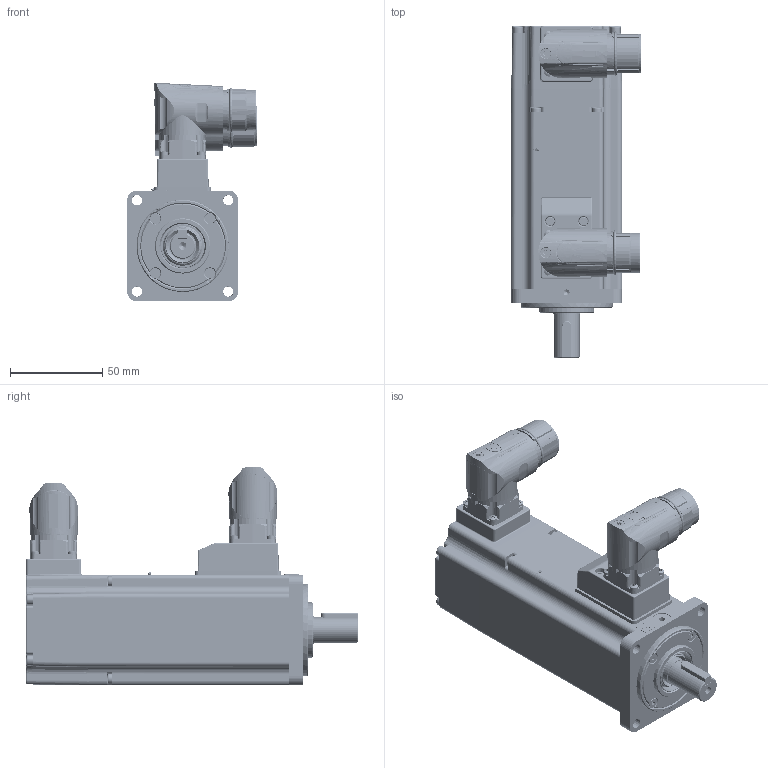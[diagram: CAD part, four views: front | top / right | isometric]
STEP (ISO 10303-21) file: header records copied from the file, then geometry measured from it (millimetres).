
FILE_DESCRIPTION(/* description */ ('AdapterTestApp'),/* implementation_level */ '2;1');
FILE_NAME(/* name */ 'TCE60 2A XX 3 A1 1 C2',/* time_stamp */ '2016-11-11T16:57:54+01:00',/* author */ ('AdapterTestApp'),/* organization */ ('Siemens PLM Software'),/* preprocessor_version */ 'ST-DEVELOPER v15.6',/* originating_system */ 'DEX',/* authorisation */ $);
FILE_SCHEMA (('AUTOMOTIVE_DESIGN {1 0 10303 214 3 1 1}'));
Products named in the file (1): TCE60 2A XX 3 A1 1 C2_vuoto
Bounding box: 70.16 x 180 x 118.5 mm (x, y, z)
Volume: 314309 mm3; surface area: 165526.7 mm2
Topology: 16 solids, 89 shells, 3307 faces, 8394 edges, 5381 vertices
Faces by surface type: plane 1555, cylinder 847, cone 342, bspline 249, torus 195, sphere 81, extrusion 38
Full cylindrical faces by diameter (mm): 1 x21, 1.2 x17, 1.4 x4, 1.5 x3, 2 x12, 2.013 x3, 2.2 x2, 2.459 x49, 2.5 x11, 2.6 x4, 2.65 x4, 2.7 x2, 2.8 x4, 3 x36, 3.2 x1, 3.242 x4, 3.4 x6, 3.5 x21, 4.134 x2, 4.4 x8, 4.5 x2, 4.7 x3, 5 x1, 5.5 x21, 5.8 x1, 5.9 x2, 6 x10, 6.5 x1, 6.8 x1, 9.98 x1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
Entity records: 109491 total; most frequent: CARTESIAN_POINT 35350, DIRECTION 15001, ORIENTED_EDGE 14680, EDGE_CURVE 7340, AXIS2_PLACEMENT_3D 5708, VERTEX_POINT 5063, FACE_BOUND 4353, EDGE_LOOP 4312
